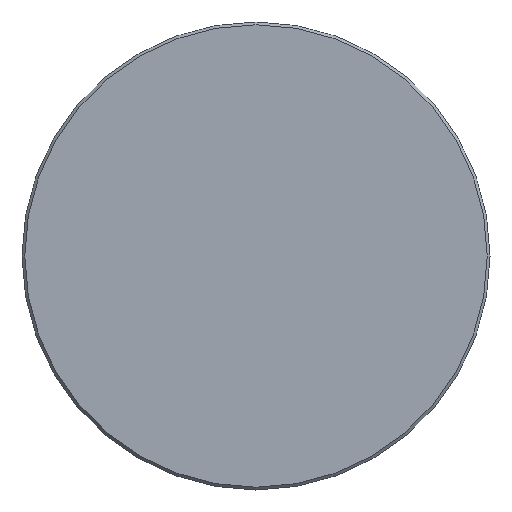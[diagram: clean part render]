
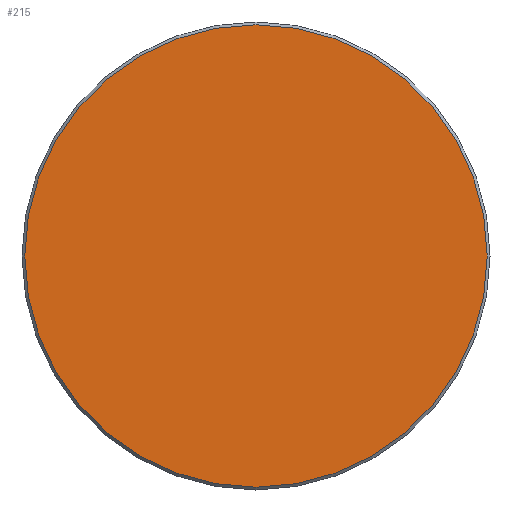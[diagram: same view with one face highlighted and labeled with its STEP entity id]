
A CAD part, front view. The second image highlights one B-rep face of the part: STEP entity #215.
In plain terms, the highlighted planar face has unit normal (0, -1, 0).
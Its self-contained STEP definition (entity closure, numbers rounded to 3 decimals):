
#63 = CONICAL_SURFACE('',#64,25.,0.785);
#64 = AXIS2_PLACEMENT_3D('',#65,#66,#67);
#65 = CARTESIAN_POINT('',(0.,-4.7,0.));
#66 = DIRECTION('',(0.,1.,0.));
#67 = DIRECTION('',(1.,0.,0.));
#160 = VERTEX_POINT('',#161);
#161 = CARTESIAN_POINT('',(24.7,-5.,0.));
#182 = EDGE_CURVE('',#160,#160,#183,.T.);
#183 = SURFACE_CURVE('',#184,(#189,#195),.PCURVE_S1.);
#184 = CIRCLE('',#185,24.7);
#185 = AXIS2_PLACEMENT_3D('',#186,#187,#188);
#186 = CARTESIAN_POINT('',(0.,-5.,0.));
#187 = DIRECTION('',(0.,-1.,0.));
#188 = DIRECTION('',(1.,0.,0.));
#189 = PCURVE('',#63,#190);
#190 = DEFINITIONAL_REPRESENTATION('',(#191),#194);
#191 = B_SPLINE_CURVE_WITH_KNOTS('',1,(#192,#193),.UNSPECIFIED.,.F.,.F.,
  (2,2),(0.,6.283),.PIECEWISE_BEZIER_KNOTS.);
#192 = CARTESIAN_POINT('',(0.,-0.3));
#193 = CARTESIAN_POINT('',(-6.283,-0.3));
#194 = ( GEOMETRIC_REPRESENTATION_CONTEXT(2) 
PARAMETRIC_REPRESENTATION_CONTEXT() REPRESENTATION_CONTEXT('2D SPACE',''
  ) );
#195 = PCURVE('',#196,#201);
#196 = PLANE('',#197);
#197 = AXIS2_PLACEMENT_3D('',#198,#199,#200);
#198 = CARTESIAN_POINT('',(0.,-5.,0.));
#199 = DIRECTION('',(0.,1.,0.));
#200 = DIRECTION('',(0.,0.,1.));
#201 = DEFINITIONAL_REPRESENTATION('',(#202),#210);
#202 = ( BOUNDED_CURVE() B_SPLINE_CURVE(2,(#203,#204,#205,#206,#207,#208
,#209),.UNSPECIFIED.,.T.,.F.) B_SPLINE_CURVE_WITH_KNOTS((1,2,2,2,2,1),(
    -2.094,0.,2.094,4.189,6.283,
8.378),.UNSPECIFIED.) CURVE() GEOMETRIC_REPRESENTATION_ITEM() 
RATIONAL_B_SPLINE_CURVE((1.,0.5,1.,0.5,1.,0.5,1.)) REPRESENTATION_ITEM(
  '') );
#203 = CARTESIAN_POINT('',(0.,24.7));
#204 = CARTESIAN_POINT('',(42.782,24.7));
#205 = CARTESIAN_POINT('',(21.391,-12.35));
#206 = CARTESIAN_POINT('',(0.,-49.4));
#207 = CARTESIAN_POINT('',(-21.391,-12.35));
#208 = CARTESIAN_POINT('',(-42.782,24.7));
#209 = CARTESIAN_POINT('',(0.,24.7));
#210 = ( GEOMETRIC_REPRESENTATION_CONTEXT(2) 
PARAMETRIC_REPRESENTATION_CONTEXT() REPRESENTATION_CONTEXT('2D SPACE',''
  ) );
#215 = ADVANCED_FACE('',(#216),#196,.F.);
#216 = FACE_BOUND('',#217,.F.);
#217 = EDGE_LOOP('',(#218));
#218 = ORIENTED_EDGE('',*,*,#182,.F.);
